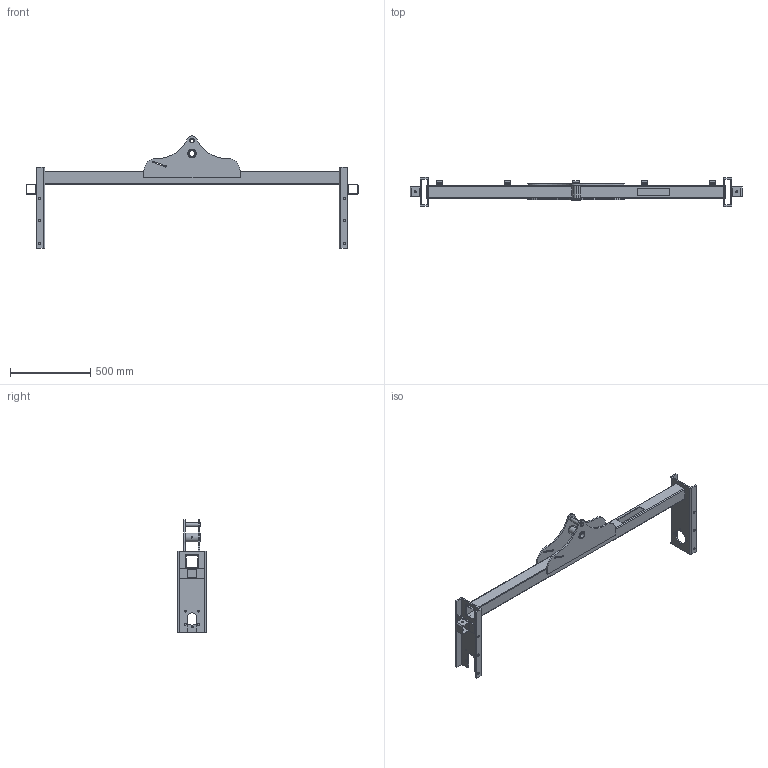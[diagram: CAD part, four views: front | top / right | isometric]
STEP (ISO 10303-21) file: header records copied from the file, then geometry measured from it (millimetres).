
FILE_DESCRIPTION (( 'STEP AP203' ), '1' );
FILE_NAME ('H-AB1830(72IN)-Manitou-05翋遺殤郪璃.STEP', '2025-10-29T12:30:55', ( '' ), ( '' ), 'SwSTEP 2.0', 'SolidWorks 2018', '' );
FILE_SCHEMA (( 'CONFIG_CONTROL_DESIGN' ));
Length unit declared in the file: millimetre
Products named in the file (10): S-RB1830-02-06-Q345唅蛌說啣T10; FXB-T8x65x158-Q345源倛啣; S-RB1830-02-01-Q345衵唑旋啣T10; S-RB1830-02-04-Q235褒詩T3x3#-40; S-RB1830-02-02-Q345酘唑旋啣T10; S-RB1830-02-07-Q345粣杶; S-RB1830-02-05-Q345源奪-儂樓T5x65x65-60; H-AB1830(72IN)-Manitou-05翋遺殤郪璃; S-RB1830-02-03-Q345源奪-儂樓T5x80x80-1865; S-RB1830-02-08-Q235粣杶
Assembly tree (16 placements, depth 2):
  H-AB1830(72IN)-Manitou-05翋遺殤郪璃
    S-RB1830-02-01-Q345衵唑旋啣T10
    S-RB1830-02-02-Q345酘唑旋啣T10
    S-RB1830-02-03-Q345源奪-儂樓T5x80x80-1865
    S-RB1830-02-04-Q235褒詩T3x3#-40  x5
    S-RB1830-02-05-Q345源奪-儂樓T5x65x65-60  x2
    FXB-T8x65x158-Q345源倛啣  x2
    S-RB1830-02-06-Q345唅蛌說啣T10  x2
    S-RB1830-02-07-Q345粣杶
    S-RB1830-02-08-Q235粣杶
Bounding box: 2068 x 181 x 699.5 mm (x, y, z)
Volume: 7265217.4 mm3; surface area: 2169967.4 mm2
Topology: 16 solids, 16 shells, 297 faces, 743 edges, 482 vertices
Faces by surface type: plane 165, cylinder 124, cone 8
Entity records: 7382 total; most frequent: CARTESIAN_POINT 1147, DIRECTION 1098, ORIENTED_EDGE 976, EDGE_CURVE 488, AXIS2_PLACEMENT_3D 397, VERTEX_POINT 312, LINE 304, VECTOR 304
